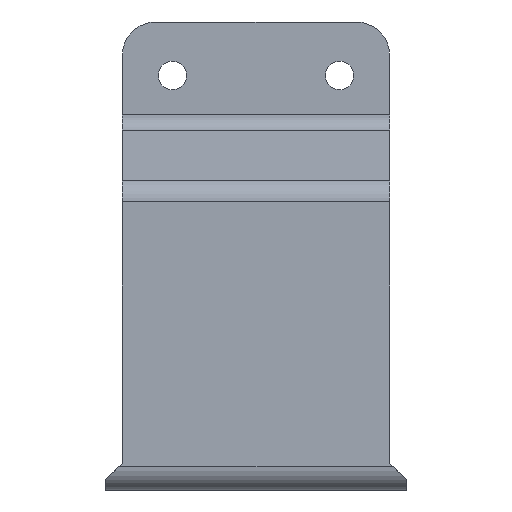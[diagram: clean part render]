
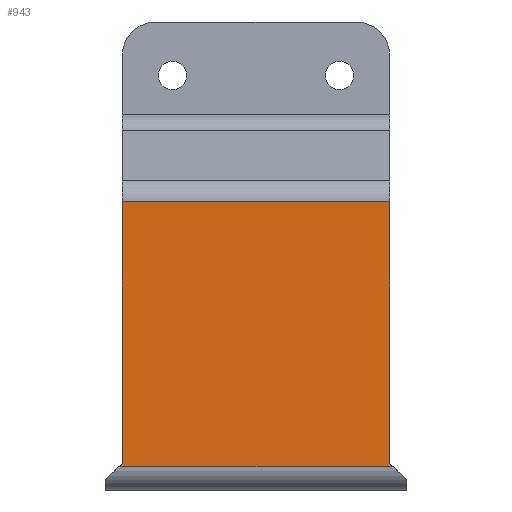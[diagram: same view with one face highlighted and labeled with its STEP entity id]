
A CAD part, left-side view. The second image highlights one B-rep face of the part: STEP entity #943.
In plain terms, the highlighted planar face has unit normal (-1, 0, 0).
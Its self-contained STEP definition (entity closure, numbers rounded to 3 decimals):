
#106 = DIRECTION ( 'NONE',  ( 0., -1., 0. ) ) ;
#119 = DIRECTION ( 'NONE',  ( 1., 0., 0. ) ) ;
#122 = CARTESIAN_POINT ( 'NONE',  ( -76.75, -40., -37.81 ) ) ;
#130 = EDGE_CURVE ( 'NONE', #1922, #2369, #1464, .T. ) ;
#140 = VECTOR ( 'NONE', #1316, 1000. ) ;
#164 = VERTEX_POINT ( 'NONE', #1878 ) ;
#219 = DIRECTION ( 'NONE',  ( 0., 0., 1. ) ) ;
#226 = CARTESIAN_POINT ( 'NONE',  ( -76.75, 40., -116. ) ) ;
#290 = VECTOR ( 'NONE', #1416, 1000. ) ;
#293 = VECTOR ( 'NONE', #106, 1000. ) ;
#340 = LINE ( 'NONE', #1809, #290 ) ;
#420 = FACE_OUTER_BOUND ( 'NONE', #2235, .T. ) ;
#465 = VERTEX_POINT ( 'NONE', #601 ) ;
#552 = LINE ( 'NONE', #915, #1923 ) ;
#567 = CARTESIAN_POINT ( 'NONE',  ( -76.75, 0., -37.81 ) ) ;
#581 = LINE ( 'NONE', #567, #140 ) ;
#601 = CARTESIAN_POINT ( 'NONE',  ( -76.75, 41., -117. ) ) ;
#672 = ORIENTED_EDGE ( 'NONE', *, *, #1895, .F. ) ;
#831 = LINE ( 'NONE', #1000, #293 ) ;
#861 = ORIENTED_EDGE ( 'NONE', *, *, #1198, .F. ) ;
#887 = EDGE_CURVE ( 'NONE', #465, #164, #831, .T. ) ;
#904 = LINE ( 'NONE', #985, #1528 ) ;
#915 = CARTESIAN_POINT ( 'NONE',  ( -76.75, 45., -121. ) ) ;
#943 = ADVANCED_FACE ( 'NONE', ( #420 ), #1013, .F. ) ;
#968 = DIRECTION ( 'NONE',  ( 0., 0., -1. ) ) ;
#985 = CARTESIAN_POINT ( 'NONE',  ( -76.75, -40., 0. ) ) ;
#1000 = CARTESIAN_POINT ( 'NONE',  ( -76.75, 70., -117. ) ) ;
#1013 = PLANE ( 'NONE',  #1514 ) ;
#1195 = VERTEX_POINT ( 'NONE', #1250 ) ;
#1198 = EDGE_CURVE ( 'NONE', #1195, #164, #340, .T. ) ;
#1239 = VECTOR ( 'NONE', #219, 1000. ) ;
#1250 = CARTESIAN_POINT ( 'NONE',  ( -76.75, -40., -116. ) ) ;
#1316 = DIRECTION ( 'NONE',  ( 0., -1., 0. ) ) ;
#1416 = DIRECTION ( 'NONE',  ( 0., -0.707, -0.707 ) ) ;
#1434 = EDGE_CURVE ( 'NONE', #465, #1922, #552, .T. ) ;
#1436 = ORIENTED_EDGE ( 'NONE', *, *, #130, .F. ) ;
#1463 = CARTESIAN_POINT ( 'NONE',  ( -76.75, 40., 0. ) ) ;
#1464 = LINE ( 'NONE', #1463, #1239 ) ;
#1514 = AXIS2_PLACEMENT_3D ( 'NONE', #1731, #119, #1569 ) ;
#1525 = DIRECTION ( 'NONE',  ( 0., -0.707, 0.707 ) ) ;
#1528 = VECTOR ( 'NONE', #968, 1000. ) ;
#1569 = DIRECTION ( 'NONE',  ( 0., 0., -1. ) ) ;
#1679 = ORIENTED_EDGE ( 'NONE', *, *, #2147, .F. ) ;
#1731 = CARTESIAN_POINT ( 'NONE',  ( -76.75, 0., 0. ) ) ;
#1809 = CARTESIAN_POINT ( 'NONE',  ( -76.75, -40., -116. ) ) ;
#1844 = ORIENTED_EDGE ( 'NONE', *, *, #887, .T. ) ;
#1878 = CARTESIAN_POINT ( 'NONE',  ( -76.75, -41., -117. ) ) ;
#1886 = ORIENTED_EDGE ( 'NONE', *, *, #1434, .F. ) ;
#1895 = EDGE_CURVE ( 'NONE', #2369, #2266, #581, .T. ) ;
#1922 = VERTEX_POINT ( 'NONE', #226 ) ;
#1923 = VECTOR ( 'NONE', #1525, 1000. ) ;
#1985 = CARTESIAN_POINT ( 'NONE',  ( -76.75, 40., -37.81 ) ) ;
#2147 = EDGE_CURVE ( 'NONE', #2266, #1195, #904, .T. ) ;
#2235 = EDGE_LOOP ( 'NONE', ( #861, #1679, #672, #1436, #1886, #1844 ) ) ;
#2266 = VERTEX_POINT ( 'NONE', #122 ) ;
#2369 = VERTEX_POINT ( 'NONE', #1985 ) ;
